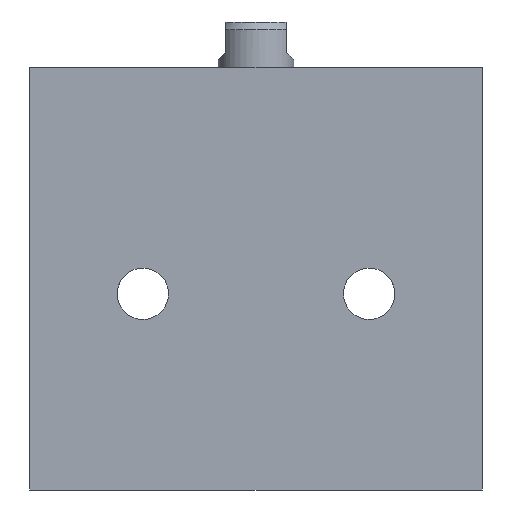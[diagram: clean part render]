
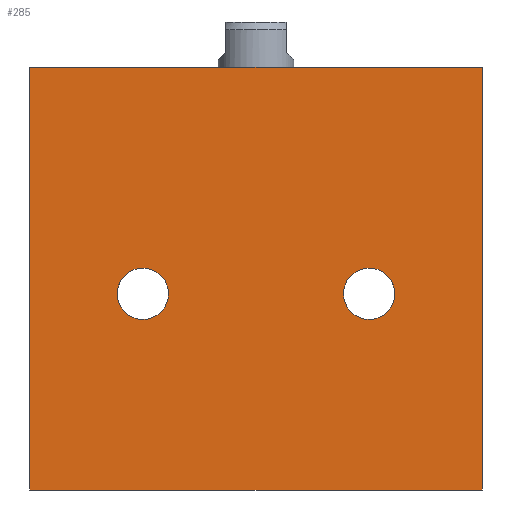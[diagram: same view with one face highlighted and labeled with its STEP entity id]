
A CAD part, front view. The second image highlights one B-rep face of the part: STEP entity #285.
In plain terms, the highlighted planar face has unit normal (0, -1, 0).
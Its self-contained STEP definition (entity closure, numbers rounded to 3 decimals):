
#29 = VERTEX_POINT ( 'NONE', #457 ) ;
#31 = VERTEX_POINT ( 'NONE', #461 ) ;
#36 = VERTEX_POINT ( 'NONE', #358 ) ;
#38 = VERTEX_POINT ( 'NONE', #454 ) ;
#60 = VERTEX_POINT ( 'NONE', #433 ) ;
#65 = VERTEX_POINT ( 'NONE', #428 ) ;
#67 = VERTEX_POINT ( 'NONE', #426 ) ;
#68 = VERTEX_POINT ( 'NONE', #425 ) ;
#102 = EDGE_LOOP ( 'NONE', ( #1870, #1866, #1865, #1864 ) ) ;
#191 = EDGE_LOOP ( 'NONE', ( #2101, #2107 ) ) ;
#193 = EDGE_LOOP ( 'NONE', ( #2051, #2040 ) ) ;
#285 = ADVANCED_FACE ( 'NONE', ( #2029, #2028, #2059 ), #1281, .F. ) ;
#358 = CARTESIAN_POINT ( 'NONE',  ( -15., -17.5, 29.4 ) ) ;
#425 = CARTESIAN_POINT ( 'NONE',  ( -30., -17.5, 56. ) ) ;
#426 = CARTESIAN_POINT ( 'NONE',  ( -30., -17.5, 0. ) ) ;
#428 = CARTESIAN_POINT ( 'NONE',  ( 30., -17.5, 0. ) ) ;
#433 = CARTESIAN_POINT ( 'NONE',  ( 30., -17.5, 56. ) ) ;
#454 = CARTESIAN_POINT ( 'NONE',  ( -15., -17.5, 22.6 ) ) ;
#457 = CARTESIAN_POINT ( 'NONE',  ( 15., -17.5, 29.4 ) ) ;
#461 = CARTESIAN_POINT ( 'NONE',  ( 15., -17.5, 22.6 ) ) ;
#623 = DIRECTION ( 'NONE',  ( 0., 0., -1. ) ) ;
#624 = CARTESIAN_POINT ( 'NONE',  ( 30., -17.5, 56. ) ) ;
#965 = VECTOR ( 'NONE', #623, 1000. ) ;
#968 = LINE ( 'NONE', #624, #965 ) ;
#998 = EDGE_CURVE ( 'NONE', #68, #67, #1895, .T. ) ;
#1000 = EDGE_CURVE ( 'NONE', #29, #31, #1953, .T. ) ;
#1001 = EDGE_CURVE ( 'NONE', #36, #38, #1955, .T. ) ;
#1002 = EDGE_CURVE ( 'NONE', #67, #65, #1951, .T. ) ;
#1003 = EDGE_CURVE ( 'NONE', #68, #60, #1949, .T. ) ;
#1050 = EDGE_CURVE ( 'NONE', #31, #29, #1995, .T. ) ;
#1054 = EDGE_CURVE ( 'NONE', #38, #36, #1993, .T. ) ;
#1121 = EDGE_CURVE ( 'NONE', #60, #65, #968, .T. ) ;
#1195 = DIRECTION ( 'NONE',  ( 0., 0., 1. ) ) ;
#1259 = DIRECTION ( 'NONE',  ( 0., 0., 1. ) ) ;
#1260 = DIRECTION ( 'NONE',  ( 0., 1., 0. ) ) ;
#1261 = CARTESIAN_POINT ( 'NONE',  ( -15., -17.5, 26. ) ) ;
#1281 = PLANE ( 'NONE',  #1690 ) ;
#1309 = DIRECTION ( 'NONE',  ( 0., 0., 1. ) ) ;
#1310 = DIRECTION ( 'NONE',  ( 0., 1., 0. ) ) ;
#1311 = CARTESIAN_POINT ( 'NONE',  ( 15., -17.5, 26. ) ) ;
#1313 = CARTESIAN_POINT ( 'NONE',  ( -30., -17.5, 56. ) ) ;
#1371 = DIRECTION ( 'NONE',  ( 1., 0., 0. ) ) ;
#1374 = CARTESIAN_POINT ( 'NONE',  ( -30., -17.5, 56. ) ) ;
#1375 = DIRECTION ( 'NONE',  ( 0., 0., 1. ) ) ;
#1377 = DIRECTION ( 'NONE',  ( 0., 1., 0. ) ) ;
#1379 = CARTESIAN_POINT ( 'NONE',  ( -15., -17.5, 26. ) ) ;
#1389 = CARTESIAN_POINT ( 'NONE',  ( -30., -17.5, 0. ) ) ;
#1390 = DIRECTION ( 'NONE',  ( 0., 0., 1. ) ) ;
#1394 = DIRECTION ( 'NONE',  ( 0., 1., 0. ) ) ;
#1395 = CARTESIAN_POINT ( 'NONE',  ( 15., -17.5, 26. ) ) ;
#1406 = DIRECTION ( 'NONE',  ( 1., 0., 0. ) ) ;
#1417 = DIRECTION ( 'NONE',  ( 0., 0., -1. ) ) ;
#1419 = DIRECTION ( 'NONE',  ( 0., 1., 0. ) ) ;
#1423 = CARTESIAN_POINT ( 'NONE',  ( -30., -17.5, 56. ) ) ;
#1615 = AXIS2_PLACEMENT_3D ( 'NONE', #1261, #1260, #1259 ) ;
#1616 = AXIS2_PLACEMENT_3D ( 'NONE', #1311, #1310, #1309 ) ;
#1643 = AXIS2_PLACEMENT_3D ( 'NONE', #1379, #1377, #1375 ) ;
#1644 = AXIS2_PLACEMENT_3D ( 'NONE', #1395, #1394, #1390 ) ;
#1690 = AXIS2_PLACEMENT_3D ( 'NONE', #1313, #1419, #1195 ) ;
#1864 = ORIENTED_EDGE ( 'NONE', *, *, #998, .T. ) ;
#1865 = ORIENTED_EDGE ( 'NONE', *, *, #1003, .F. ) ;
#1866 = ORIENTED_EDGE ( 'NONE', *, *, #1121, .F. ) ;
#1870 = ORIENTED_EDGE ( 'NONE', *, *, #1002, .T. ) ;
#1895 = LINE ( 'NONE', #1423, #1954 ) ;
#1946 = VECTOR ( 'NONE', #1371, 1000. ) ;
#1948 = VECTOR ( 'NONE', #1406, 1000. ) ;
#1949 = LINE ( 'NONE', #1374, #1946 ) ;
#1951 = LINE ( 'NONE', #1389, #1948 ) ;
#1953 = CIRCLE ( 'NONE', #1644, 3.4 ) ;
#1954 = VECTOR ( 'NONE', #1417, 1000. ) ;
#1955 = CIRCLE ( 'NONE', #1643, 3.4 ) ;
#1993 = CIRCLE ( 'NONE', #1615, 3.4 ) ;
#1995 = CIRCLE ( 'NONE', #1616, 3.4 ) ;
#2028 = FACE_BOUND ( 'NONE', #193, .T. ) ;
#2029 = FACE_BOUND ( 'NONE', #191, .T. ) ;
#2040 = ORIENTED_EDGE ( 'NONE', *, *, #1054, .T. ) ;
#2051 = ORIENTED_EDGE ( 'NONE', *, *, #1001, .T. ) ;
#2059 = FACE_OUTER_BOUND ( 'NONE', #102, .T. ) ;
#2101 = ORIENTED_EDGE ( 'NONE', *, *, #1000, .T. ) ;
#2107 = ORIENTED_EDGE ( 'NONE', *, *, #1050, .T. ) ;
